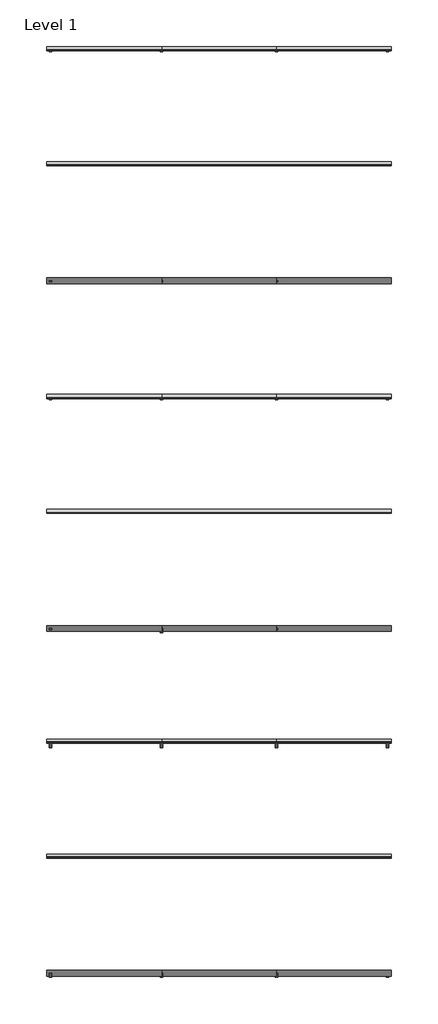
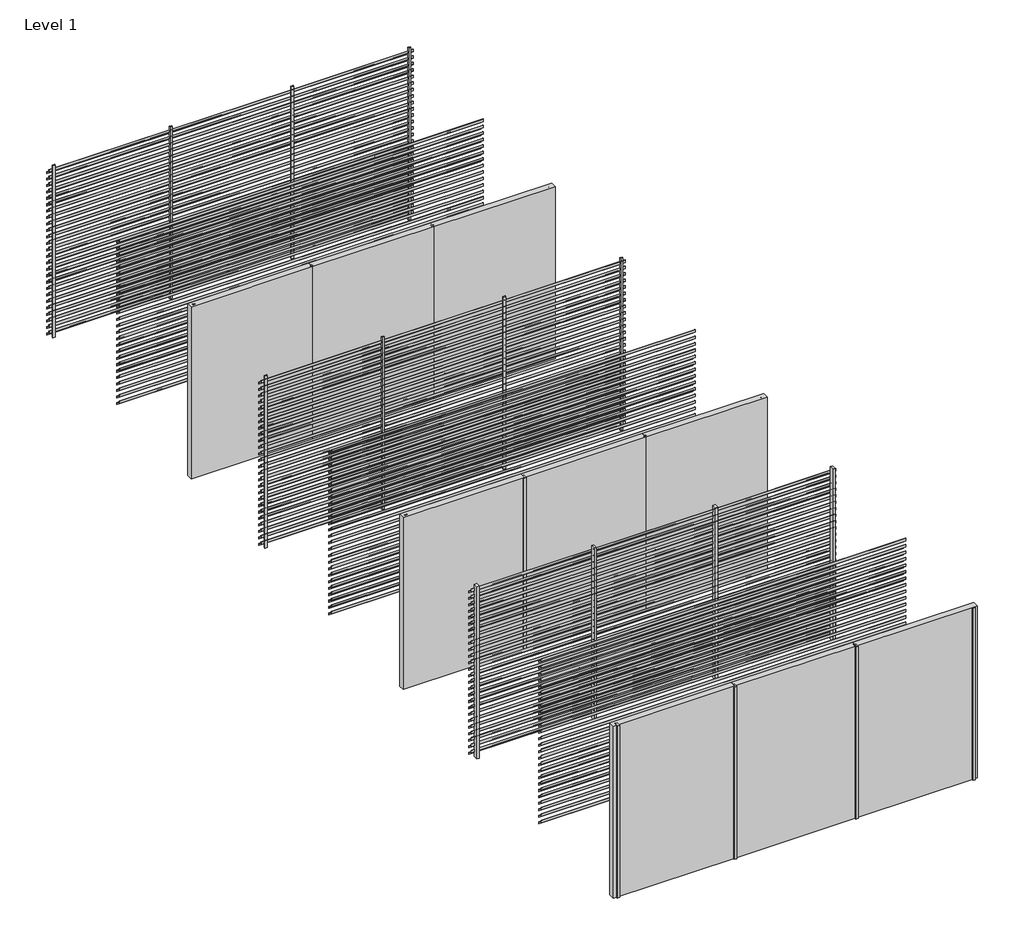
# One storey: 24 members, 21 plates.
"""IFC4 building model written with IfcOpenShell, lengths in millimetres."""

from ifc_helpers import new_model, si_unit, origin, place, context, project, spatial, transform, mapped, element, save
from components import rectangular_mullion_38ebcafd, rectangular_mullion_2b30d03f, rectangular_mullion_a5d3c004, rectangular_mullion_b9a1a312, rectangular_mullion_3da17bfe, rectangular_mullion_3b23135f, empty_system_panel_empty_24b1c33f, screening_70_112_screening_70_112_5289f8e1, screening_70_112_screening_70_112_4b826975

model = new_model("IFC4")

# Units and contexts
model_context = context("Model", 3, world=origin())
ifc_project = project(units=[si_unit("LENGTHUNIT", "METRE", prefix="MILLI")], contexts=[model_context])

# Site, building, storey
site = spatial("IfcSite", under=ifc_project)
building = spatial("IfcBuilding", under=site)
storey = spatial("IfcBuildingStorey", under=building, Name="Level 1", Elevation=0.0)

# Members
placement = place(None, origin())
rectangular_mullion_shape = rectangular_mullion_38ebcafd(model_context)
element("IfcMember", 1, ObjectType="Rectangular Mullion : RSen_21_CWM_support profile - 40x21 - left_gen_duco projects", at=placement, inside=storey, context=model_context, shape_type="MappedRepresentation", body=[
    mapped(rectangular_mullion_shape, transform((0.0, 0.0, 0.0), x_axis=(-1.0, 0.0, 0.0), y_axis=(0.0, 1.0, 0.0), z_axis=(0.0, 0.0, -1.0))),
])
element("IfcMember", 2, ObjectType="Rectangular Mullion : RSen_21_CWM_support profile - 40x21 - left_gen_duco projects", at=placement, inside=storey, context=model_context, shape_type="MappedRepresentation", body=[
    mapped(rectangular_mullion_shape, transform((0.0, -4000.0, 0.0), x_axis=(-1.0, 0.0, 0.0), y_axis=(0.0, 1.0, 0.0), z_axis=(0.0, 0.0, -1.0))),
])
rectangular_mullion_2_shape = rectangular_mullion_2b30d03f(model_context)
element("IfcMember", 3, ObjectType="Rectangular Mullion : RSen_21_CWM_support profile - 40x21 - right_gen_duco projects", at=placement, inside=storey, context=model_context, shape_type="MappedRepresentation", body=[
    mapped(rectangular_mullion_2_shape, transform((6000.0, 0.0, 3000.0), x_axis=(1.0, 0.0, 0.0), y_axis=(0.0, 1.0, 0.0), z_axis=(0.0, 0.0, 1.0))),
])
element("IfcMember", 4, ObjectType="Rectangular Mullion : RSen_21_CWM_support profile - 40x21 - right_gen_duco projects", at=placement, inside=storey, context=model_context, shape_type="MappedRepresentation", body=[
    mapped(rectangular_mullion_2_shape, transform((6000.0, -4000.0, 3000.0), x_axis=(1.0, 0.0, 0.0), y_axis=(0.0, 1.0, 0.0), z_axis=(0.0, 0.0, 1.0))),
])
rectangular_mullion_3_shape = rectangular_mullion_a5d3c004(model_context)
element("IfcMember", 5, ObjectType="Rectangular Mullion : RSen_21_CWM_support profile - 40x70-double - left_gen_duco projects", at=placement, inside=storey, context=model_context, shape_type="MappedRepresentation", body=[
    mapped(rectangular_mullion_3_shape, transform((0.0, -6000.0, 0.0), x_axis=(-1.0, 0.0, 0.0), y_axis=(0.0, 1.0, 0.0), z_axis=(0.0, 0.0, -1.0))),
])
element("IfcMember", 6, ObjectType="Rectangular Mullion : RSen_21_CWM_support profile - 40x70-double - left_gen_duco projects", at=placement, inside=storey, context=model_context, shape_type="MappedRepresentation", body=[
    mapped(rectangular_mullion_3_shape, transform((0.0, -10000.0, 0.0), x_axis=(-1.0, 0.0, 0.0), y_axis=(0.0, 1.0, 0.0), z_axis=(0.0, 0.0, -1.0))),
])
rectangular_mullion_4_shape = rectangular_mullion_b9a1a312(model_context)
element("IfcMember", 7, ObjectType="Rectangular Mullion : RSen_21_CWM_support profile - 40x70-double - right_gen_duco projects", at=placement, inside=storey, context=model_context, shape_type="MappedRepresentation", body=[
    mapped(rectangular_mullion_4_shape, transform((6000.0, -6000.0, 3000.0), x_axis=(1.0, 0.0, 0.0), y_axis=(0.0, 1.0, 0.0), z_axis=(0.0, 0.0, 1.0))),
])
element("IfcMember", 8, ObjectType="Rectangular Mullion : RSen_21_CWM_support profile - 40x70-double - right_gen_duco projects", at=placement, inside=storey, context=model_context, shape_type="MappedRepresentation", body=[
    mapped(rectangular_mullion_4_shape, transform((6000.0, -10000.0, 3000.0), x_axis=(1.0, 0.0, 0.0), y_axis=(0.0, 1.0, 0.0), z_axis=(0.0, 0.0, 1.0))),
])
rectangular_mullion_5_shape = rectangular_mullion_3da17bfe(model_context)
element("IfcMember", 9, ObjectType="Rectangular Mullion : RSen_21_CWM_support profile - 40x70-double_gen_duco projects", at=placement, inside=storey, context=model_context, shape_type="MappedRepresentation", body=[
    mapped(rectangular_mullion_5_shape, transform((2000.0, -4000.0, 0.0), x_axis=(-1.0, 0.0, 0.0), y_axis=(0.0, 1.0, 0.0), z_axis=(0.0, 0.0, -1.0))),
])
element("IfcMember", 10, ObjectType="Rectangular Mullion : RSen_21_CWM_support profile - 40x70-double_gen_duco projects", at=placement, inside=storey, context=model_context, shape_type="MappedRepresentation", body=[
    mapped(rectangular_mullion_5_shape, transform((4000.0, -6000.0, 0.0), x_axis=(-1.0, 0.0, 0.0), y_axis=(0.0, 1.0, 0.0), z_axis=(0.0, 0.0, -1.0))),
])
element("IfcMember", 11, ObjectType="Rectangular Mullion : RSen_21_CWM_support profile - 40x70-double_gen_duco projects", at=placement, inside=storey, context=model_context, shape_type="MappedRepresentation", body=[
    mapped(rectangular_mullion_5_shape, transform((2000.0, -6000.0, 0.0), x_axis=(-1.0, 0.0, 0.0), y_axis=(0.0, 1.0, 0.0), z_axis=(0.0, 0.0, -1.0))),
])
element("IfcMember", 12, ObjectType="Rectangular Mullion : RSen_21_CWM_support profile - 40x70-double_gen_duco projects", at=placement, inside=storey, context=model_context, shape_type="MappedRepresentation", body=[
    mapped(rectangular_mullion_5_shape, transform((4000.0, -10000.0, 0.0), x_axis=(-1.0, 0.0, 0.0), y_axis=(0.0, 1.0, 0.0), z_axis=(0.0, 0.0, -1.0))),
])
element("IfcMember", 13, ObjectType="Rectangular Mullion : RSen_21_CWM_support profile - 40x70-double_gen_duco projects", at=placement, inside=storey, context=model_context, shape_type="MappedRepresentation", body=[
    mapped(rectangular_mullion_5_shape, transform((2000.0, -10000.0, 0.0), x_axis=(-1.0, 0.0, 0.0), y_axis=(0.0, 1.0, 0.0), z_axis=(0.0, 0.0, -1.0))),
])
rectangular_mullion_6_shape = rectangular_mullion_3b23135f(model_context)
element("IfcMember", 14, ObjectType="Rectangular Mullion : RSen_21_CWM_support profile - 40x21 - gen_duco projects", at=placement, inside=storey, context=model_context, shape_type="MappedRepresentation", body=[
    mapped(rectangular_mullion_6_shape, transform((4000.0, 0.0, 0.0), x_axis=(-1.0, 0.0, 0.0), y_axis=(0.0, 1.0, 0.0), z_axis=(0.0, 0.0, -1.0))),
])
element("IfcMember", 15, ObjectType="Rectangular Mullion : RSen_21_CWM_support profile - 40x21 - gen_duco projects", at=placement, inside=storey, context=model_context, shape_type="MappedRepresentation", body=[
    mapped(rectangular_mullion_6_shape, transform((2000.0, 0.0, 0.0), x_axis=(-1.0, 0.0, 0.0), y_axis=(0.0, 1.0, 0.0), z_axis=(0.0, 0.0, -1.0))),
])
element("IfcMember", 16, ObjectType="Rectangular Mullion : RSen_21_CWM_support profile - 40x21 - gen_duco projects", at=placement, inside=storey, context=model_context, shape_type="MappedRepresentation", body=[
    mapped(rectangular_mullion_6_shape, transform((4000.0, -4000.0, 0.0), x_axis=(-1.0, 0.0, 0.0), y_axis=(0.0, 1.0, 0.0), z_axis=(0.0, 0.0, -1.0))),
])
element("IfcMember", 17, ObjectType="Rectangular Mullion : RSen_21_CWM_support profile - 40x21-double_gen_duco projects", at=placement, inside=storey, context=model_context, shape_type="MappedRepresentation", body=[
    mapped(rectangular_mullion_6_shape, transform((4000.0, 6050.5, 0.0), x_axis=(-1.0, 0.0, 0.0), y_axis=(0.0, 1.0, 0.0), z_axis=(0.0, 0.0, -1.0))),
])
element("IfcMember", 18, ObjectType="Rectangular Mullion : RSen_21_CWM_support profile - 40x21-double_gen_duco projects", at=placement, inside=storey, context=model_context, shape_type="MappedRepresentation", body=[
    mapped(rectangular_mullion_6_shape, transform((2000.0, 6050.5, 0.0), x_axis=(-1.0, 0.0, 0.0), y_axis=(0.0, 1.0, 0.0), z_axis=(0.0, 0.0, -1.0))),
])
element("IfcMember", 19, ObjectType="Rectangular Mullion : RSen_21_CWM_support profile - 40x21-double_gen_duco projects", at=placement, inside=storey, context=model_context, shape_type="MappedRepresentation", body=[
    mapped(rectangular_mullion_6_shape, transform((4000.0, 2050.5, 0.0), x_axis=(-1.0, 0.0, 0.0), y_axis=(0.0, 1.0, 0.0), z_axis=(0.0, 0.0, -1.0))),
])
element("IfcMember", 20, ObjectType="Rectangular Mullion : RSen_21_CWM_support profile - 40x21-double_gen_duco projects", at=placement, inside=storey, context=model_context, shape_type="MappedRepresentation", body=[
    mapped(rectangular_mullion_6_shape, transform((2000.0, 2050.5, 0.0), x_axis=(-1.0, 0.0, 0.0), y_axis=(0.0, 1.0, 0.0), z_axis=(0.0, 0.0, -1.0))),
])
element("IfcMember", 21, ObjectType="Rectangular Mullion : RSen_21_CWM_support profile - 40x21-double - right_gen_duco projects", at=placement, inside=storey, context=model_context, shape_type="MappedRepresentation", body=[
    mapped(rectangular_mullion_2_shape, transform((6000.0, 6050.5, 3000.0), x_axis=(1.0, 0.0, 0.0), y_axis=(0.0, 1.0, 0.0), z_axis=(0.0, 0.0, 1.0))),
])
element("IfcMember", 22, ObjectType="Rectangular Mullion : RSen_21_CWM_support profile - 40x21-double - right_gen_duco projects", at=placement, inside=storey, context=model_context, shape_type="MappedRepresentation", body=[
    mapped(rectangular_mullion_2_shape, transform((6000.0, 2050.5, 3000.0), x_axis=(1.0, 0.0, 0.0), y_axis=(0.0, 1.0, 0.0), z_axis=(0.0, 0.0, 1.0))),
])
element("IfcMember", 23, ObjectType="Rectangular Mullion : RSen_21_CWM_support profile - 40x21-double - left_gen_duco projects", at=placement, inside=storey, context=model_context, shape_type="MappedRepresentation", body=[
    mapped(rectangular_mullion_shape, transform((0.0, 6050.5, 0.0), x_axis=(-1.0, 0.0, 0.0), y_axis=(0.0, 1.0, 0.0), z_axis=(0.0, 0.0, -1.0))),
])
element("IfcMember", 24, ObjectType="Rectangular Mullion : RSen_21_CWM_support profile - 40x21-double - left_gen_duco projects", at=placement, inside=storey, context=model_context, shape_type="MappedRepresentation", body=[
    mapped(rectangular_mullion_shape, transform((0.0, 2050.5, 0.0), x_axis=(-1.0, 0.0, 0.0), y_axis=(0.0, 1.0, 0.0), z_axis=(0.0, 0.0, -1.0))),
])

# Plates
empty_system_panel_empty_shape = empty_system_panel_empty_24b1c33f(model_context)
element("IfcPlate", 25, ObjectType="Empty System Panel : Empty", at=placement, inside=storey, context=model_context, shape_type="MappedRepresentation", body=[
    mapped(empty_system_panel_empty_shape, transform((5000.0, -4000.0, 0.0), x_axis=(-1.0, 0.0, 0.0), y_axis=(0.0, -1.0, 0.0), z_axis=(0.0, 0.0, 1.0))),
])
element("IfcPlate", 26, ObjectType="Empty System Panel : Empty", at=placement, inside=storey, context=model_context, shape_type="MappedRepresentation", body=[
    mapped(empty_system_panel_empty_shape, transform((5000.0, -10000.0, 0.0), x_axis=(-1.0, 0.0, 0.0), y_axis=(0.0, -1.0, 0.0), z_axis=(0.0, 0.0, 1.0))),
])
element("IfcPlate", 27, ObjectType="Empty System Panel : Empty", at=placement, inside=storey, context=model_context, shape_type="MappedRepresentation", body=[
    mapped(empty_system_panel_empty_shape, transform((3000.0, -4000.0, 0.0), x_axis=(-1.0, 0.0, 0.0), y_axis=(0.0, -1.0, 0.0), z_axis=(0.0, 0.0, 1.0))),
])
element("IfcPlate", 28, ObjectType="Empty System Panel : Empty", at=placement, inside=storey, context=model_context, shape_type="MappedRepresentation", body=[
    mapped(empty_system_panel_empty_shape, transform((1000.0, -4000.0, 0.0), x_axis=(-1.0, 0.0, 0.0), y_axis=(0.0, -1.0, 0.0), z_axis=(0.0, 0.0, 1.0))),
])
element("IfcPlate", 29, ObjectType="Empty System Panel : Empty", at=placement, inside=storey, context=model_context, shape_type="MappedRepresentation", body=[
    mapped(empty_system_panel_empty_shape, transform((3000.0, -10000.0, 0.0), x_axis=(-1.0, 0.0, 0.0), y_axis=(0.0, -1.0, 0.0), z_axis=(0.0, 0.0, 1.0))),
])
element("IfcPlate", 30, ObjectType="Empty System Panel : Empty", at=placement, inside=storey, context=model_context, shape_type="MappedRepresentation", body=[
    mapped(empty_system_panel_empty_shape, transform((1000.0, -10000.0, 0.0), x_axis=(-1.0, 0.0, 0.0), y_axis=(0.0, -1.0, 0.0), z_axis=(0.0, 0.0, 1.0))),
])
element("IfcPlate", 31, ObjectType="Empty System Panel : Empty", at=placement, inside=storey, context=model_context, shape_type="MappedRepresentation", body=[
    mapped(empty_system_panel_empty_shape, transform((5000.0, 2050.5, 0.0), x_axis=(-1.0, 0.0, 0.0), y_axis=(0.0, -1.0, 0.0), z_axis=(0.0, 0.0, 1.0))),
])
element("IfcPlate", 32, ObjectType="Empty System Panel : Empty", at=placement, inside=storey, context=model_context, shape_type="MappedRepresentation", body=[
    mapped(empty_system_panel_empty_shape, transform((3000.0, 2050.5, 0.0), x_axis=(-1.0, 0.0, 0.0), y_axis=(0.0, -1.0, 0.0), z_axis=(0.0, 0.0, 1.0))),
])
element("IfcPlate", 33, ObjectType="Empty System Panel : Empty", at=placement, inside=storey, context=model_context, shape_type="MappedRepresentation", body=[
    mapped(empty_system_panel_empty_shape, transform((1000.0, 2050.5, 0.0), x_axis=(-1.0, 0.0, 0.0), y_axis=(0.0, -1.0, 0.0), z_axis=(0.0, 0.0, 1.0))),
])
screening_70_112_screening_70_112_shape = screening_70_112_screening_70_112_5289f8e1(model_context)
element("IfcPlate", 34, ObjectType="Screening 70-112 : Screening 70-112", at=placement, inside=storey, context=model_context, shape_type="MappedRepresentation", body=[
    mapped(screening_70_112_screening_70_112_shape, transform((5000.0, 0.0, 0.0), x_axis=(-1.0, 0.0, 0.0), y_axis=(0.0, -1.0, 0.0), z_axis=(0.0, 0.0, 1.0))),
])
element("IfcPlate", 35, ObjectType="Screening 70-112 : Screening 70-112", at=placement, inside=storey, context=model_context, shape_type="MappedRepresentation", body=[
    mapped(screening_70_112_screening_70_112_shape, transform((5000.0, -6000.0, 0.0), x_axis=(-1.0, 0.0, 0.0), y_axis=(0.0, -1.0, 0.0), z_axis=(0.0, 0.0, 1.0))),
])
element("IfcPlate", 36, ObjectType="Screening 70-112 : Screening 70-112", at=placement, inside=storey, context=model_context, shape_type="MappedRepresentation", body=[
    mapped(screening_70_112_screening_70_112_shape, transform((3000.0, 0.0, 0.0), x_axis=(-1.0, 0.0, 0.0), y_axis=(0.0, -1.0, 0.0), z_axis=(0.0, 0.0, 1.0))),
])
element("IfcPlate", 37, ObjectType="Screening 70-112 : Screening 70-112", at=placement, inside=storey, context=model_context, shape_type="MappedRepresentation", body=[
    mapped(screening_70_112_screening_70_112_shape, transform((1000.0, 0.0, 0.0), x_axis=(-1.0, 0.0, 0.0), y_axis=(0.0, -1.0, 0.0), z_axis=(0.0, 0.0, 1.0))),
])
element("IfcPlate", 38, ObjectType="Screening 70-112 : Screening 70-112", at=placement, inside=storey, context=model_context, shape_type="MappedRepresentation", body=[
    mapped(screening_70_112_screening_70_112_shape, transform((3000.0, -6000.0, 0.0), x_axis=(-1.0, 0.0, 0.0), y_axis=(0.0, -1.0, 0.0), z_axis=(0.0, 0.0, 1.0))),
])
element("IfcPlate", 39, ObjectType="Screening 70-112 : Screening 70-112", at=placement, inside=storey, context=model_context, shape_type="MappedRepresentation", body=[
    mapped(screening_70_112_screening_70_112_shape, transform((1000.0, -6000.0, 0.0), x_axis=(-1.0, 0.0, 0.0), y_axis=(0.0, -1.0, 0.0), z_axis=(0.0, 0.0, 1.0))),
])
element("IfcPlate", 40, ObjectType="Screening 70-112 : Screening 70-112", at=placement, inside=storey, context=model_context, shape_type="MappedRepresentation", body=[
    mapped(screening_70_112_screening_70_112_shape, transform((5000.0, 6050.5, 0.0), x_axis=(-1.0, 0.0, 0.0), y_axis=(0.0, -1.0, 0.0), z_axis=(0.0, 0.0, 1.0))),
])
element("IfcPlate", 41, ObjectType="Screening 70-112 : Screening 70-112", at=placement, inside=storey, context=model_context, shape_type="MappedRepresentation", body=[
    mapped(screening_70_112_screening_70_112_shape, transform((3000.0, 6050.5, 0.0), x_axis=(-1.0, 0.0, 0.0), y_axis=(0.0, -1.0, 0.0), z_axis=(0.0, 0.0, 1.0))),
])
element("IfcPlate", 42, ObjectType="Screening 70-112 : Screening 70-112", at=placement, inside=storey, context=model_context, shape_type="MappedRepresentation", body=[
    mapped(screening_70_112_screening_70_112_shape, transform((1000.0, 6050.5, 0.0), x_axis=(-1.0, 0.0, 0.0), y_axis=(0.0, -1.0, 0.0), z_axis=(0.0, 0.0, 1.0))),
])
screening_70_112_screening_70_112_2_shape = screening_70_112_screening_70_112_4b826975(model_context)
element("IfcPlate", 43, ObjectType="Screening 70-112 : Screening 70-112", at=placement, inside=storey, context=model_context, shape_type="MappedRepresentation", body=[
    mapped(screening_70_112_screening_70_112_2_shape, transform((3000.0, -2000.0, 0.0), x_axis=(-1.0, 0.0, 0.0), y_axis=(0.0, -1.0, 0.0), z_axis=(0.0, 0.0, 1.0))),
])
element("IfcPlate", 44, ObjectType="Screening 70-112 : Screening 70-112", at=placement, inside=storey, context=model_context, shape_type="MappedRepresentation", body=[
    mapped(screening_70_112_screening_70_112_2_shape, transform((3000.0, -8000.0, 0.0), x_axis=(-1.0, 0.0, 0.0), y_axis=(0.0, -1.0, 0.0), z_axis=(0.0, 0.0, 1.0))),
])
element("IfcPlate", 45, ObjectType="Screening 70-112 : Screening 70-112", at=placement, inside=storey, context=model_context, shape_type="MappedRepresentation", body=[
    mapped(screening_70_112_screening_70_112_2_shape, transform((3000.0, 4050.5, 0.0), x_axis=(-1.0, 0.0, 0.0), y_axis=(0.0, -1.0, 0.0), z_axis=(0.0, 0.0, 1.0))),
])

save(model, "model.ifc")
